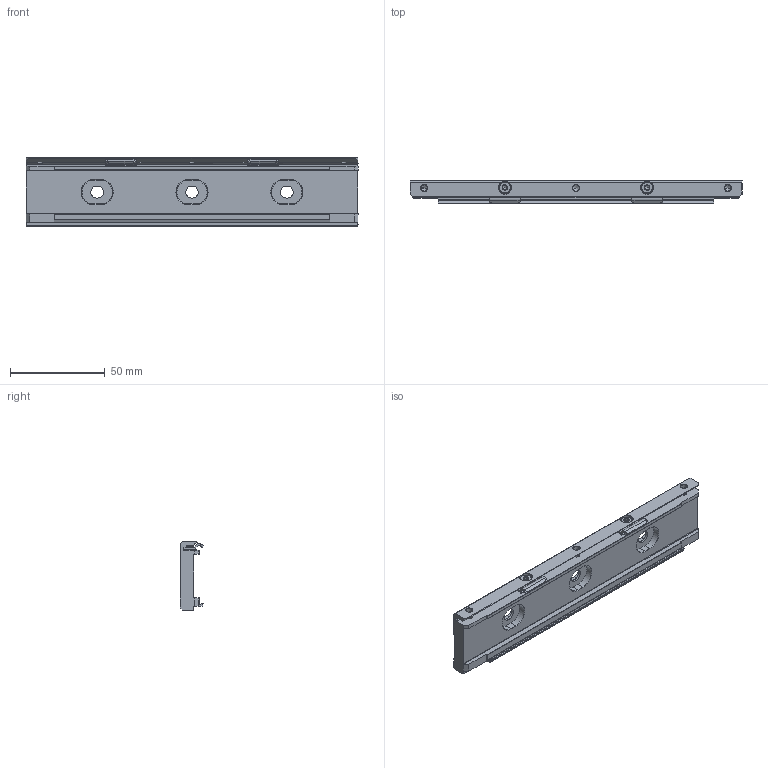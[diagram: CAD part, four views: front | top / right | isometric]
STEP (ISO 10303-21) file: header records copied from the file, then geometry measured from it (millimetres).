
FILE_DESCRIPTION(('Creo Elements/Direct Modeling STEP Export'),'2;1');
FILE_NAME('B3-70.stp','2020-10-30T11:24:46',(''),(''),'Creo Elements/Direct Modeling STEP processor for AP214 (Solid Model)','Creo Elements/Direct Modeling 19.0G 27-Nov-2017 (C) Parametric Technology GmbH','');
FILE_SCHEMA(('AUTOMOTIVE_DESIGN { 1 0 10303 214 1 1 1 1 }'));
Length unit declared in the file: millimetre
Products named in the file (2): PERFIL_SOPORTE_REGLA_SV3-70
Assembly tree (1 placements, depth 2):
  PERFIL_SOPORTE_REGLA_SV3-70
    PERFIL_SOPORTE_REGLA_SV3-70
Bounding box: 175 x 12.14 x 36.1 mm (x, y, z)
Volume: 42472.9 mm3; surface area: 23397.5 mm2
Topology: 1 solids, 1 shells, 458 faces, 1286 edges, 834 vertices
Faces by surface type: plane 224, cylinder 170, cone 48, torus 8, bspline 8
Entity records: 16508 total; most frequent: CARTESIAN_POINT 3494, ORIENTED_EDGE 2548, DIRECTION 2249, EDGE_CURVE 1274, VERTEX_POINT 834, AXIS2_PLACEMENT_3D 755, VECTOR 739, LINE 739
